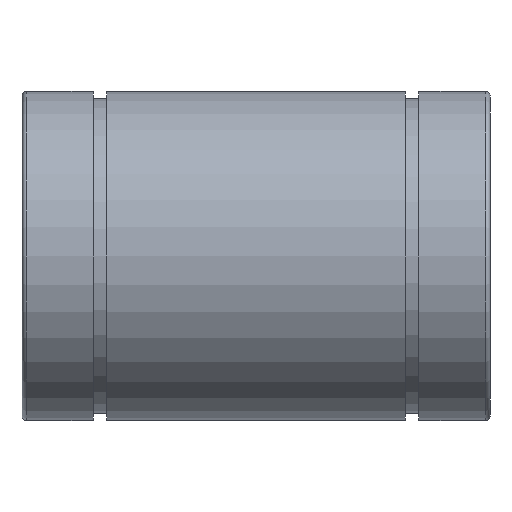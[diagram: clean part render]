
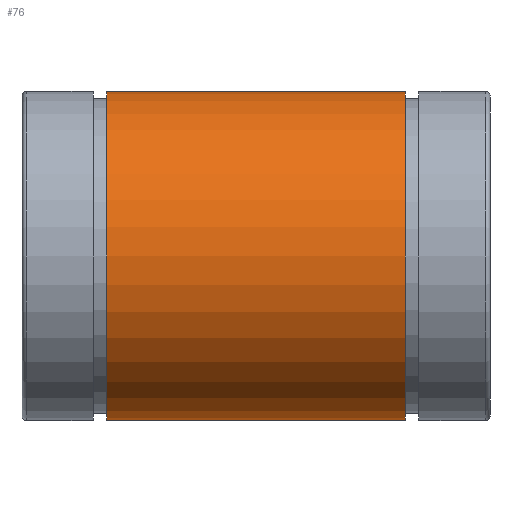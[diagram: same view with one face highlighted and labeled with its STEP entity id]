
A CAD part, front view. The second image highlights one B-rep face of the part: STEP entity #76.
In plain terms, the highlighted cylindrical face has radius 22.5 mm (diameter 45 mm), a full revolution.
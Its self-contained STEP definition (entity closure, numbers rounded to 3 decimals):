
#76=ADVANCED_FACE('',(#93,#94),#95,.T.);
#93=FACE_OUTER_BOUND('',#135,.T.);
#94=FACE_OUTER_BOUND('',#136,.T.);
#95=CYLINDRICAL_SURFACE('',#137,22.5);
#135=EDGE_LOOP('',(#179));
#136=EDGE_LOOP('',(#180));
#137=AXIS2_PLACEMENT_3D('',#181,#182,#183);
#179=ORIENTED_EDGE('',*,*,#246,.F.);
#180=ORIENTED_EDGE('',*,*,#247,.F.);
#181=CARTESIAN_POINT('',(0.,0.,0.0));
#182=DIRECTION('',(1.0,-0.0,-0.0));
#183=DIRECTION('',(0.0,1.0,0.0));
#246=EDGE_CURVE('',#262,#262,#263,.T.);
#247=EDGE_CURVE('',#264,#264,#265,.T.);
#262=VERTEX_POINT('',#290);
#263=CIRCLE('',#291,22.5);
#264=VERTEX_POINT('',#292);
#265=CIRCLE('',#293,22.5);
#290=CARTESIAN_POINT('',(-20.4,-22.5,0.0));
#291=AXIS2_PLACEMENT_3D('',#320,#321,#322);
#292=CARTESIAN_POINT('',(20.4,22.5,0.0));
#293=AXIS2_PLACEMENT_3D('',#323,#324,#325);
#320=CARTESIAN_POINT('',(-20.4,0.,0.0));
#321=DIRECTION('',(-1.0,0.,0.0));
#322=DIRECTION('',(0.,-1.0,0.0));
#323=CARTESIAN_POINT('',(20.4,0.,0.0));
#324=DIRECTION('',(1.0,0.,0.0));
#325=DIRECTION('',(0.,1.0,0.0));
